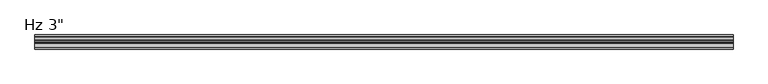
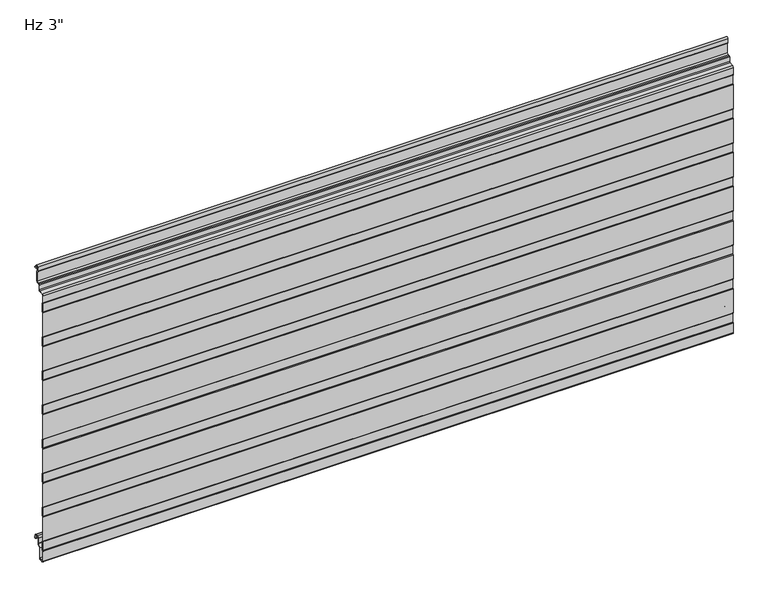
"""IFC4 building model written with IfcOpenShell, lengths in millimetres: plate geometry."""

from ifc_helpers import new_model, si_unit, point, frame, frame_2d, origin, place, context, project, spatial, polyline, circle_curve, trimmed, segment, composite_curve, outline, extrude, source, transform, mapped, element, save


def plate_a4bec449(model_context):
    return source(origin(), model_context, "Body", "SweptSolid", [
        extrude(outline(composite_curve([segment(trimmed(circle_curve(frame_2d((-74.7998717, -10.6415934)), 1.3998661), [point((-76.1997378, -10.6415934))], [point((-75.7324955, -9.5976403))], False, "CARTESIAN"), True, "CONTINUOUS"), segment(polyline([(-75.7324955, -9.5976403), (-74.9997693, -8.8649141), (-74.9997693, 10.0260713), (-75.7327349, 10.7590369)]), True, "CONTINUOUS"), segment(trimmed(circle_curve(frame_2d((-74.8000237, 11.8030877)), 1.3999972), [point((-75.7327349, 10.7590369))], [point((-76.2, 11.810741))], False, "CARTESIAN"), True, "CONTINUOUS"), segment(polyline([(-76.2, 11.810741), (-76.2, 65.5582542)]), True, "CONTINUOUS"), segment(trimmed(circle_curve(frame_2d((-74.8000028, 65.5582542)), 1.3999972), [point((-76.2, 65.5582542))], [point((-75.732714, 66.602305))], False, "CARTESIAN"), True, "CONTINUOUS"), segment(polyline([(-75.732714, 66.602305), (-74.9997693, 67.3352497), (-74.9997693, 86.2259189), (-75.7327349, 86.9588845)]), True, "CONTINUOUS"), segment(trimmed(circle_curve(frame_2d((-74.8000237, 88.0029353)), 1.3999972), [point((-75.7327349, 86.9588845))], [point((-76.2, 88.0105886))], False, "CARTESIAN"), True, "CONTINUOUS"), segment(polyline([(-76.2, 88.0105886), (-76.2, 141.7581018)]), True, "CONTINUOUS"), segment(trimmed(circle_curve(frame_2d((-74.8000028, 141.7581018)), 1.3999972), [point((-76.2, 141.7581018))], [point((-75.732714, 142.8021526))], False, "CARTESIAN"), True, "CONTINUOUS"), segment(polyline([(-75.732714, 142.8021526), (-74.9997693, 143.5350973), (-74.9997693, 162.4257665), (-75.7327349, 163.1587321)]), True, "CONTINUOUS"), segment(trimmed(circle_curve(frame_2d((-74.8000237, 164.2027829)), 1.3999972), [point((-75.7327349, 163.1587321))], [point((-76.2, 164.2104362))], False, "CARTESIAN"), True, "CONTINUOUS"), segment(polyline([(-76.2, 164.2104362), (-76.2, 217.9579494)]), True, "CONTINUOUS"), segment(trimmed(circle_curve(frame_2d((-74.8000028, 217.9579494)), 1.3999972), [point((-76.2, 217.9579494))], [point((-75.732714, 219.0020002))], False, "CARTESIAN"), True, "CONTINUOUS"), segment(polyline([(-75.732714, 219.0020002), (-74.9997693, 219.7349449), (-74.9997693, 238.6256141), (-75.7327349, 239.3585797)]), True, "CONTINUOUS"), segment(trimmed(circle_curve(frame_2d((-74.8000237, 240.4026305)), 1.3999972), [point((-75.7327349, 239.3585797))], [point((-76.2, 240.4102838))], False, "CARTESIAN"), True, "CONTINUOUS"), segment(polyline([(-76.2, 240.4102838), (-76.2, 294.157797)]), True, "CONTINUOUS"), segment(trimmed(circle_curve(frame_2d((-74.8000028, 294.157797)), 1.3999972), [point((-76.2, 294.157797))], [point((-75.732714, 295.2018478))], False, "CARTESIAN"), True, "CONTINUOUS"), segment(polyline([(-75.732714, 295.2018478), (-74.9997693, 295.9347925), (-74.9997693, 314.8254617), (-75.7327349, 315.5584273)]), True, "CONTINUOUS"), segment(trimmed(circle_curve(frame_2d((-74.8000237, 316.6024781)), 1.3999972), [point((-75.7327349, 315.5584273))], [point((-76.2, 316.6101314))], False, "CARTESIAN"), True, "CONTINUOUS"), segment(polyline([(-76.2, 316.6101314), (-76.2, 370.3576446)]), True, "CONTINUOUS"), segment(trimmed(circle_curve(frame_2d((-74.8000028, 370.3576446)), 1.3999972), [point((-76.2, 370.3576446))], [point((-75.732714, 371.4016954))], False, "CARTESIAN"), True, "CONTINUOUS"), segment(polyline([(-75.732714, 371.4016954), (-74.9997693, 372.1346401), (-74.9997693, 391.0253093), (-75.7327349, 391.7582749)]), True, "CONTINUOUS"), segment(trimmed(circle_curve(frame_2d((-74.8000237, 392.8023257)), 1.3999972), [point((-75.7327349, 391.7582749))], [point((-76.2, 392.809979))], False, "CARTESIAN"), True, "CONTINUOUS"), segment(polyline([(-76.2, 392.809979), (-76.2, 446.5574922)]), True, "CONTINUOUS"), segment(trimmed(circle_curve(frame_2d((-74.8000028, 446.5574922)), 1.3999972), [point((-76.2, 446.5574922))], [point((-75.732714, 447.601543))], False, "CARTESIAN"), True, "CONTINUOUS"), segment(polyline([(-75.732714, 447.601543), (-74.9997693, 448.3344877), (-74.9997693, 467.2251569), (-75.7327349, 467.9581225)]), True, "CONTINUOUS"), segment(trimmed(circle_curve(frame_2d((-74.8000237, 469.0021733)), 1.3999972), [point((-75.7327349, 467.9581225))], [point((-76.2, 469.0098266))], False, "CARTESIAN"), True, "CONTINUOUS"), segment(polyline([(-76.2, 469.0098266), (-76.2, 522.7573398)]), True, "CONTINUOUS"), segment(trimmed(circle_curve(frame_2d((-74.8000028, 522.7573398)), 1.3999972), [point((-76.2, 522.7573398))], [point((-75.732714, 523.8013906))], False, "CARTESIAN"), True, "CONTINUOUS"), segment(polyline([(-75.732714, 523.8013906), (-74.9997693, 524.5343353), (-74.9997693, 543.4250045), (-75.7327349, 544.1579701)]), True, "CONTINUOUS"), segment(trimmed(circle_curve(frame_2d((-74.8000237, 545.2020209)), 1.3999972), [point((-75.7327349, 544.1579701))], [point((-76.1990984, 545.2528361))], False, "CARTESIAN"), True, "CONTINUOUS"), segment(polyline([(-76.1990984, 545.2528361), (-76.1990984, 561.1384359)]), True, "CONTINUOUS"), segment(trimmed(circle_curve(frame_2d((-73.2491043, 561.1384359)), 2.9499941), [point((-76.1990984, 561.1384359))], [point((-73.5062132, 564.0772044))], False, "CARTESIAN"), True, "CONTINUOUS"), segment(polyline([(-73.5062132, 564.0772044), (-65.0419168, 564.8177344)]), True, "CONTINUOUS"), segment(trimmed(circle_curve(frame_2d((-65.2188426, 566.8400056)), 2.0299959), [point((-65.0419168, 564.8177344))], [point((-63.1914567, 566.9429135))], True, "CARTESIAN"), True, "CONTINUOUS"), segment(polyline([(-63.1914567, 566.9429135), (-63.1914567, 577.0595941)]), True, "CONTINUOUS"), segment(trimmed(circle_curve(frame_2d((-61.2423033, 577.0595941)), 1.9491534), [point((-63.1914567, 577.0595941))], [point((-61.2423033, 579.0087475))], False, "CARTESIAN"), True, "CONTINUOUS"), segment(polyline([(-61.2423033, 579.0087475), (-58.1009036, 579.0087475)]), True, "CONTINUOUS"), segment(trimmed(circle_curve(frame_2d((-58.1009036, 582.0087415)), 2.999994), [point((-58.1009036, 579.0087475))], [point((-55.1009096, 582.0087415))], True, "CARTESIAN"), True, "CONTINUOUS"), segment(polyline([(-55.1009096, 582.0087415), (-55.1009096, 602.6122013), (-56.3467537, 603.3314897)]), True, "CONTINUOUS"), segment(trimmed(circle_curve(frame_2d((-55.6217552, 604.587224)), 1.4499971), [point((-56.3467537, 603.3314897))], [point((-57.0709833, 604.6344401))], False, "CARTESIAN"), True, "CONTINUOUS"), segment(polyline([(-57.0709833, 604.6344401), (-56.726075, 613.3463704)]), True, "CONTINUOUS"), segment(trimmed(circle_curve(frame_2d((-53.6266291, 613.2236622)), 3.1018739), [point((-56.726075, 613.3463704))], [point((-50.5275082, 613.3543204))], False, "CARTESIAN"), True, "CONTINUOUS"), segment(polyline([(-50.5275082, 613.3543204), (-50.2837214, 609.3587)]), True, "CONTINUOUS"), segment(trimmed(circle_curve(frame_2d((-49.4434917, 609.4099653)), 0.8417922), [point((-50.2837214, 609.3587))], [point((-49.4729389, 608.5686884))], True, "CARTESIAN"), True, "CONTINUOUS"), segment(polyline([(-49.4729389, 608.5686884), (-46.7025061, 608.5686884), (-46.7025061, 607.5686884), (-49.4870527, 607.5686884)]), True, "CONTINUOUS"), segment(trimmed(circle_curve(frame_2d((-49.4434917, 609.4099653)), 1.8417922), [point((-49.4870527, 607.5686884))], [point((-51.2818653, 609.2977997))], False, "CARTESIAN"), True, "CONTINUOUS"), segment(polyline([(-51.2818653, 609.2977997), (-51.5262802, 613.3037148)]), True, "CONTINUOUS"), segment(trimmed(circle_curve(frame_2d((-53.6266291, 613.2236622)), 2.1018739), [point((-51.5262802, 613.3037148))], [point((-55.7268578, 613.306811))], True, "CARTESIAN"), True, "CONTINUOUS"), segment(polyline([(-55.7268578, 613.306811), (-56.0821181, 604.3334028), (-54.1009096, 603.1895515), (-54.1009096, 582.0087415)]), True, "CONTINUOUS"), segment(trimmed(circle_curve(frame_2d((-58.1009036, 582.0087415)), 3.999994), [point((-54.1009096, 582.0087415))], [point((-58.1009036, 578.0087475))], False, "CARTESIAN"), True, "CONTINUOUS"), segment(polyline([(-58.1009036, 578.0087475), (-61.2423033, 578.0087475)]), True, "CONTINUOUS"), segment(trimmed(circle_curve(frame_2d((-61.2423033, 577.0595941)), 0.9491534), [point((-61.2423033, 578.0087475))], [point((-62.1914567, 577.0595941))], True, "CARTESIAN"), True, "CONTINUOUS"), segment(polyline([(-62.1914567, 577.0595941), (-62.1914567, 566.9657441)]), True, "CONTINUOUS"), segment(trimmed(circle_curve(frame_2d((-65.2188426, 566.8400056)), 3.0299959), [point((-62.1914567, 566.9657441))], [point((-64.954761, 563.8215397))], False, "CARTESIAN"), True, "CONTINUOUS"), segment(polyline([(-64.954761, 563.8215397), (-73.4190575, 563.0810097)]), True, "CONTINUOUS"), segment(trimmed(circle_curve(frame_2d((-73.2491043, 561.1384359)), 1.9499941), [point((-73.4190575, 563.0810097))], [point((-75.1990984, 561.1384359))], True, "CARTESIAN"), True, "CONTINUOUS"), segment(polyline([(-75.1990984, 561.1384359), (-75.1990984, 545.0396538), (-73.9997693, 543.8403247), (-73.9997693, 524.1209122), (-75.2, 522.9206815), (-75.2, 468.8405497), (-73.9997693, 467.640319), (-73.9997693, 447.9209065), (-75.2, 446.7206758), (-75.2, 392.640544), (-73.9997693, 391.4403133), (-73.9997693, 371.7209008), (-75.2, 370.5206701), (-75.2, 316.4405383), (-73.9997693, 315.2403076), (-73.9997693, 295.5208951), (-75.2, 294.3206644), (-75.2, 240.2405326), (-73.9997693, 239.0403019), (-73.9997693, 219.3208894), (-75.2, 218.1206587), (-75.2, 164.0405269), (-73.9997693, 162.8402962), (-73.9997693, 143.1208837), (-75.2, 141.920653), (-75.2, 87.8405213), (-73.9997693, 86.6402905), (-73.9997693, 66.920878), (-75.2, 65.7206473), (-75.2, 11.6405156), (-73.9997693, 10.4402849), (-73.9997693, -9.2791277), (-75.1997378, -10.4790962), (-75.1997378, -32.4521176)]), True, "CONTINUOUS"), segment(trimmed(circle_curve(frame_2d((-72.6294985, -32.4521176)), 2.5702393), [point((-75.1997378, -32.4521176))], [point((-72.4054129, -35.0125699))], True, "CARTESIAN"), True, "CONTINUOUS"), segment(polyline([(-72.4054129, -35.0125699), (-67.423592, -34.5765709)]), True, "CONTINUOUS"), segment(trimmed(circle_curve(frame_2d((-67.9049826, -31.9198392)), 2.6999926), [point((-67.423592, -34.5765709))], [point((-65.20499, -31.9198392))], True, "CARTESIAN"), True, "CONTINUOUS"), segment(polyline([(-65.20499, -31.9198392), (-65.20499, -9.8247096), (-59.7029189, -4.3226385)]), True, "CONTINUOUS"), segment(trimmed(circle_curve(frame_2d((-60.9049966, -3.1205608)), 1.6999946), [point((-59.7029189, -4.3226385))], [point((-59.205002, -3.1205608))], True, "CARTESIAN"), True, "CONTINUOUS"), segment(polyline([(-59.205002, -3.1205608), (-59.205002, 8.6903283)]), True, "CONTINUOUS"), segment(trimmed(circle_curve(frame_2d((-55.8550067, 8.6903283)), 3.3499953), [point((-59.205002, 8.6903283))], [point((-55.8550067, 12.0403236))], False, "CARTESIAN"), True, "CONTINUOUS"), segment(polyline([(-55.8550067, 12.0403236), (-51.4550155, 12.0403236)]), True, "CONTINUOUS"), segment(trimmed(circle_curve(frame_2d((-51.4550155, 8.6903283)), 3.3499953), [point((-51.4550155, 12.0403236))], [point((-48.1050202, 8.6903283))], False, "CARTESIAN"), True, "CONTINUOUS"), segment(polyline([(-48.1050202, 8.6903283), (-48.1050202, 5.9912173), (-46.7065413, 5.9912173), (-46.7065413, 2.2328239)]), True, "CONTINUOUS"), segment(trimmed(circle_curve(frame_2d((-47.906538, 2.2313092)), 1.1999976), [point((-46.7065413, 2.2328239))], [point((-47.8760161, 1.0316999))], False, "CARTESIAN"), True, "CONTINUOUS"), segment(trimmed(circle_curve(frame_2d((-47.906538, 2.2313092)), 1.1999976), [point((-47.8760161, 1.0316999))], [point((-49.1050202, 2.1710221))], False, "CARTESIAN"), True, "CONTINUOUS"), segment(polyline([(-49.1050202, 2.1710221), (-49.1050202, 8.6903283)]), True, "CONTINUOUS"), segment(trimmed(circle_curve(frame_2d((-51.4550155, 8.6903283)), 2.3499953), [point((-49.1050202, 8.6903283))], [point((-51.4550155, 11.0403236))], True, "CARTESIAN"), True, "CONTINUOUS"), segment(polyline([(-51.4550155, 11.0403236), (-55.8550067, 11.0403236)]), True, "CONTINUOUS"), segment(trimmed(circle_curve(frame_2d((-55.8550067, 8.6903283)), 2.3499953), [point((-55.8550067, 11.0403236))], [point((-58.205002, 8.6903283))], True, "CARTESIAN"), True, "CONTINUOUS"), segment(polyline([(-58.205002, 8.6903283), (-58.205002, -3.1205608)]), True, "CONTINUOUS"), segment(trimmed(circle_curve(frame_2d((-60.9049966, -3.1205608)), 2.6999946), [point((-58.205002, -3.1205608))], [point((-58.9958121, -5.0297453))], False, "CARTESIAN"), True, "CONTINUOUS"), segment(polyline([(-58.9958121, -5.0297453), (-63.8242296, -9.8581627)]), True, "CONTINUOUS"), segment(trimmed(circle_curve(frame_2d((-62.9049926, -10.7773997)), 1.2999974), [point((-63.8242296, -9.8581627))], [point((-64.20499, -10.7773997))], True, "CARTESIAN"), True, "CONTINUOUS"), segment(polyline([(-64.20499, -10.7773997), (-64.20499, -31.9198392)]), True, "CONTINUOUS"), segment(trimmed(circle_curve(frame_2d((-67.9049826, -31.9198392)), 3.6999926), [point((-64.20499, -31.9198392))], [point((-67.2941815, -35.5690675))], False, "CARTESIAN"), True, "CONTINUOUS"), segment(polyline([(-67.2941815, -35.5690675), (-72.3182281, -36.008762)]), True, "CONTINUOUS"), segment(trimmed(circle_curve(frame_2d((-72.6294985, -32.4521176)), 3.5702393), [point((-72.3182281, -36.008762))], [point((-76.1997378, -32.4521176))], False, "CARTESIAN"), True, "CONTINUOUS"), segment(polyline([(-76.1997378, -32.4521176), (-76.1997378, -10.6415934)]), True, "CONTINUOUS")], self_intersect=False)), frame((-730.0, 0.0, 0.0), z_axis=(1.0, 0.0, 0.0), x_axis=(0.0, 1.0, 0.0)), (0.0, 0.0, 1.0), 1460.0),
    ])


if __name__ == "__main__":
    model = new_model("IFC4")
    model_context = context("Model", 3, world=origin())
    ifc_project = project(units=[si_unit("LENGTHUNIT", "METRE", prefix="MILLI")], contexts=[model_context])
    site = spatial("IfcSite", under=ifc_project)
    building = spatial("IfcBuilding", under=site)
    placement = place(None, origin())
    plate_shape = plate_a4bec449(model_context)
    element("IfcPlate", 1, ObjectType="KIP-24-Karrier-KP-R19-CP-Hz-SL3-8in_SL : Hz 3\"", at=placement, inside=building, context=model_context, shape_type="MappedRepresentation", body=[
        mapped(plate_shape, transform((0.0, 0.0, 0.0), x_axis=(1.0, 0.0, 0.0), y_axis=(0.0, 1.0, 0.0), z_axis=(0.0, 0.0, 1.0))),
    ])
    save(model, "model.ifc")
